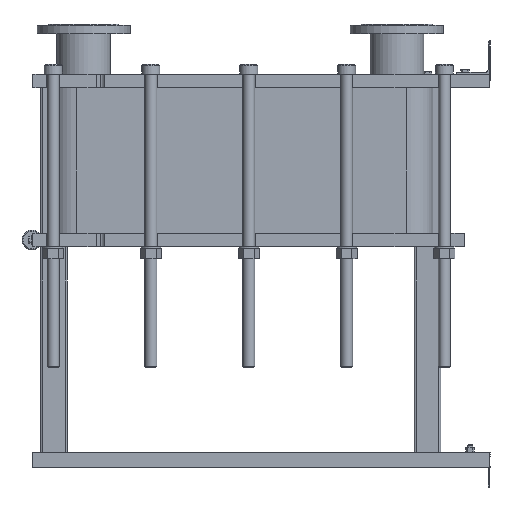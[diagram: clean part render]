
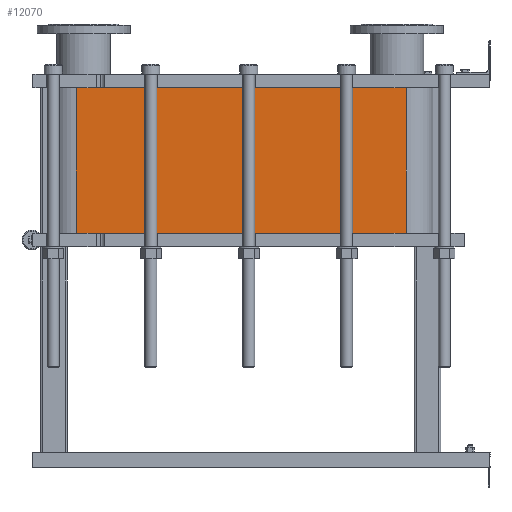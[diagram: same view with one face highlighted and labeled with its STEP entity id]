
A CAD part, left-side view. The second image highlights one B-rep face of the part: STEP entity #12070.
In plain terms, the highlighted planar face has unit normal (-1, 0, 0).
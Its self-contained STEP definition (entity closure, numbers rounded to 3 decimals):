
#1064=LINE('',#21140,#2164);
#1065=LINE('',#21144,#2165);
#1066=LINE('',#21146,#2166);
#1067=LINE('',#21147,#2167);
#2164=VECTOR('',#15790,10.);
#2165=VECTOR('',#15795,10.);
#2166=VECTOR('',#15796,10.);
#2167=VECTOR('',#15797,10.);
#3304=FACE_OUTER_BOUND('',#4091,.T.);
#4091=EDGE_LOOP('',(#9793,#9794,#9795,#9796));
#5677=VERTEX_POINT('',#21137);
#5678=VERTEX_POINT('',#21139);
#5679=VERTEX_POINT('',#21143);
#5680=VERTEX_POINT('',#21145);
#7118=EDGE_CURVE('',#5678,#5677,#1064,.T.);
#7120=EDGE_CURVE('',#5677,#5679,#1065,.T.);
#7121=EDGE_CURVE('',#5680,#5679,#1066,.T.);
#7122=EDGE_CURVE('',#5680,#5678,#1067,.T.);
#9793=ORIENTED_EDGE('',*,*,#7120,.T.);
#9794=ORIENTED_EDGE('',*,*,#7121,.F.);
#9795=ORIENTED_EDGE('',*,*,#7122,.T.);
#9796=ORIENTED_EDGE('',*,*,#7118,.T.);
#11441=PLANE('',#13191);
#12070=ADVANCED_FACE('',(#3304),#11441,.T.);
#13191=AXIS2_PLACEMENT_3D('',#21142,#15793,#15794);
#15790=DIRECTION('',(0.,0.,-1.));
#15793=DIRECTION('center_axis',(-1.,0.,0.));
#15794=DIRECTION('ref_axis',(0.,1.,0.));
#15795=DIRECTION('',(0.,-1.,0.));
#15796=DIRECTION('',(0.,0.,-1.));
#15797=DIRECTION('',(0.,1.,0.));
#21137=CARTESIAN_POINT('',(-248.152,1243.818,-438.15));
#21139=CARTESIAN_POINT('',(-248.152,1243.818,0.));
#21140=CARTESIAN_POINT('',(-248.152,1243.818,0.));
#21142=CARTESIAN_POINT('Origin',(-248.152,251.818,0.));
#21143=CARTESIAN_POINT('',(-248.152,251.818,-438.15));
#21144=CARTESIAN_POINT('',(-248.152,499.818,-438.15));
#21145=CARTESIAN_POINT('',(-248.152,251.818,0.));
#21146=CARTESIAN_POINT('',(-248.152,251.818,0.));
#21147=CARTESIAN_POINT('',(-248.152,251.818,0.));
